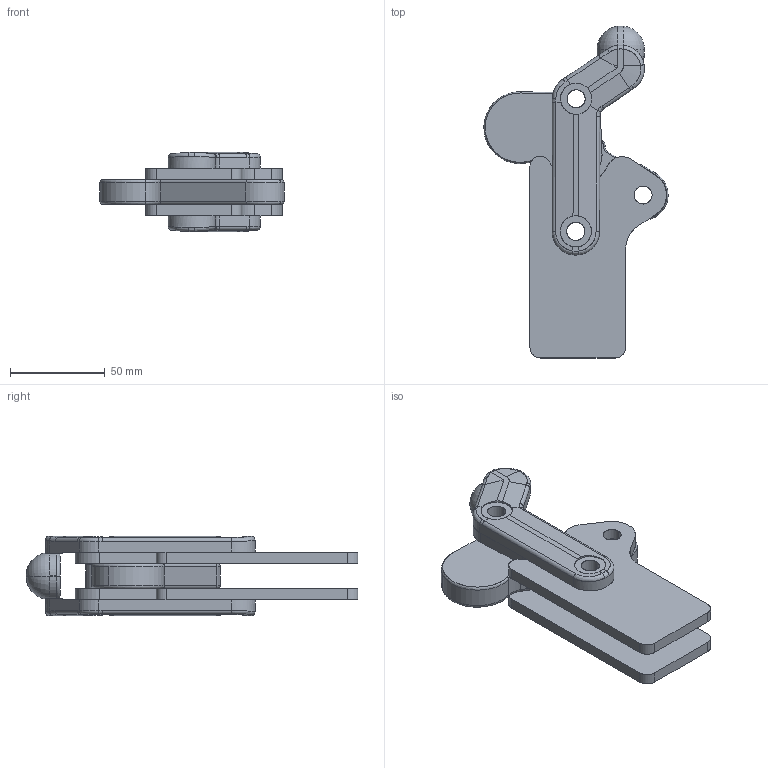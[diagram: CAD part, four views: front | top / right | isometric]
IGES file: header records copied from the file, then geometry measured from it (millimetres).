
Start section: SolidWorks IGES file using analytic representation for surfaces
Global section: file name: D:\GH Files\GH-SW-FILES\GH7\70103\GH-70103.IGS; native system: SolidWorks 2007; preprocessor: SolidWorks 2007; author: Administrator; date: 061025.164640; units: millimetre
Bounding box: 97.28 x 175.25 x 42 mm (x, y, z)
Surface area: 64486.2 mm2 (no closed solid volume)
Topology: 0 solids, 0 shells, 518 faces, 5560 edges, 5557 vertices
Faces by surface type: bspline 287, revolution 231
